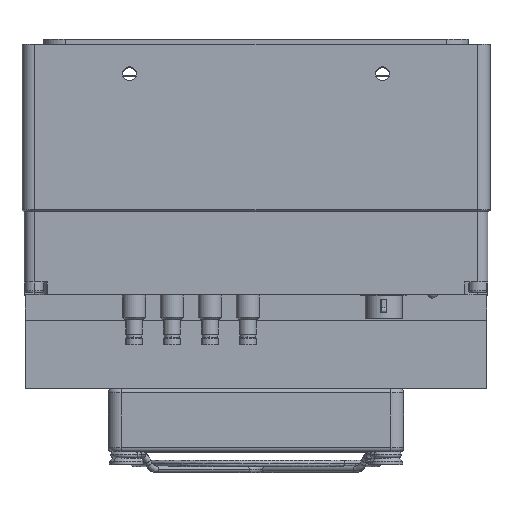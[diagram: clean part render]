
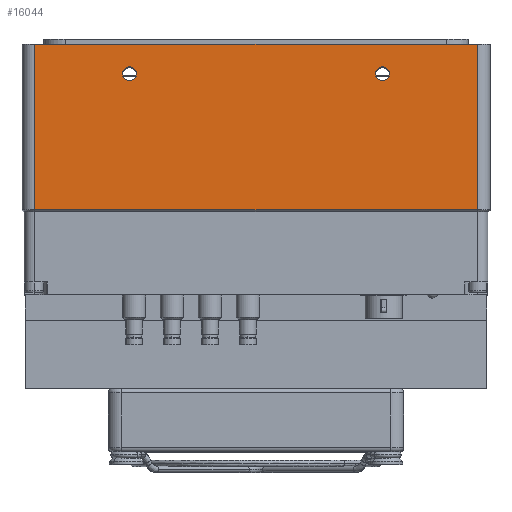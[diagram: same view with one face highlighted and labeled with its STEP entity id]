
A CAD part, top view. The second image highlights one B-rep face of the part: STEP entity #16044.
In plain terms, the highlighted planar face has unit normal (0, 0, 1).
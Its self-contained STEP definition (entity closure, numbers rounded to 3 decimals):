
#20 = VERTEX_POINT ( 'NONE', #24943 ) ;
#245 = AXIS2_PLACEMENT_3D ( 'NONE', #19605, #1244, #9084 ) ;
#607 = DIRECTION ( 'NONE',  ( 1., 0., 0. ) ) ;
#838 = CARTESIAN_POINT ( 'NONE',  ( -88.929, 32.853, 55.5 ) ) ;
#1244 = DIRECTION ( 'NONE',  ( 0., 0., 1. ) ) ;
#1448 = DIRECTION ( 'NONE',  ( 0., 0., 1. ) ) ;
#1596 = CARTESIAN_POINT ( 'NONE',  ( -106.429, 29.803, 55.5 ) ) ;
#2231 = EDGE_CURVE ( 'NONE', #20, #5968, #28464, .T. ) ;
#3607 = VECTOR ( 'NONE', #26784, 1000. ) ;
#3763 = EDGE_LOOP ( 'NONE', ( #31442, #33949, #25688, #29340 ) ) ;
#5695 = EDGE_CURVE ( 'NONE', #6828, #33868, #8930, .T. ) ;
#5968 = VERTEX_POINT ( 'NONE', #7242 ) ;
#6269 = AXIS2_PLACEMENT_3D ( 'NONE', #1596, #6867, #25158 ) ;
#6828 = VERTEX_POINT ( 'NONE', #18799 ) ;
#6867 = DIRECTION ( 'NONE',  ( 0., 0., -1. ) ) ;
#7242 = CARTESIAN_POINT ( 'NONE',  ( -64.779, 25.853, 55.5 ) ) ;
#7289 = DIRECTION ( 'NONE',  ( 0., 0., 1. ) ) ;
#8387 = CARTESIAN_POINT ( 'NONE',  ( -106.429, 32.853, 55.5 ) ) ;
#8701 = VECTOR ( 'NONE', #25701, 1000. ) ;
#8930 = CIRCLE ( 'NONE', #21032, 1.65 ) ;
#9084 = DIRECTION ( 'NONE',  ( 1., 0., 0. ) ) ;
#10398 = ORIENTED_EDGE ( 'NONE', *, *, #24783, .F. ) ;
#11568 = EDGE_CURVE ( 'NONE', #19849, #25580, #15161, .T. ) ;
#13868 = VERTEX_POINT ( 'NONE', #838 ) ;
#14281 = LINE ( 'NONE', #8387, #3607 ) ;
#14282 = FACE_OUTER_BOUND ( 'NONE', #3763, .T. ) ;
#14766 = DIRECTION ( 'NONE',  ( 1., 0., 0. ) ) ;
#14783 = CARTESIAN_POINT ( 'NONE',  ( 16.071, 29.803, 55.5 ) ) ;
#14889 = LINE ( 'NONE', #25844, #29750 ) ;
#14981 = CARTESIAN_POINT ( 'NONE',  ( -8.079, 25.853, 55.5 ) ) ;
#15017 = CARTESIAN_POINT ( 'NONE',  ( -88.929, -6.367, 55.5 ) ) ;
#15161 = LINE ( 'NONE', #21523, #28358 ) ;
#15284 = LINE ( 'NONE', #14783, #8701 ) ;
#16044 = ADVANCED_FACE ( 'NONE', ( #29154, #18804, #14282 ), #16892, .F. ) ;
#16162 = ORIENTED_EDGE ( 'NONE', *, *, #17497, .F. ) ;
#16892 = PLANE ( 'NONE',  #6269 ) ;
#17029 = AXIS2_PLACEMENT_3D ( 'NONE', #33228, #1448, #27705 ) ;
#17497 = EDGE_CURVE ( 'NONE', #5968, #20, #23675, .T. ) ;
#17547 = CIRCLE ( 'NONE', #17029, 1.65 ) ;
#17815 = ORIENTED_EDGE ( 'NONE', *, *, #2231, .F. ) ;
#18021 = DIRECTION ( 'NONE',  ( 0., -1., 0. ) ) ;
#18799 = CARTESIAN_POINT ( 'NONE',  ( -4.779, 25.853, 55.5 ) ) ;
#18804 = FACE_BOUND ( 'NONE', #32622, .T. ) ;
#19193 = DIRECTION ( 'NONE',  ( 1., 0., 0. ) ) ;
#19542 = EDGE_CURVE ( 'NONE', #13868, #19849, #14889, .T. ) ;
#19605 = CARTESIAN_POINT ( 'NONE',  ( -66.429, 25.853, 55.5 ) ) ;
#19812 = EDGE_CURVE ( 'NONE', #25580, #28583, #15284, .T. ) ;
#19849 = VERTEX_POINT ( 'NONE', #15017 ) ;
#21032 = AXIS2_PLACEMENT_3D ( 'NONE', #27185, #32354, #19193 ) ;
#21523 = CARTESIAN_POINT ( 'NONE',  ( 30.571, -6.367, 55.5 ) ) ;
#23675 = CIRCLE ( 'NONE', #32068, 1.65 ) ;
#23826 = CARTESIAN_POINT ( 'NONE',  ( 16.071, -6.367, 55.5 ) ) ;
#24640 = EDGE_CURVE ( 'NONE', #28583, #13868, #14281, .T. ) ;
#24783 = EDGE_CURVE ( 'NONE', #33868, #6828, #17547, .T. ) ;
#24893 = ORIENTED_EDGE ( 'NONE', *, *, #5695, .F. ) ;
#24943 = CARTESIAN_POINT ( 'NONE',  ( -68.079, 25.853, 55.5 ) ) ;
#25158 = DIRECTION ( 'NONE',  ( -1., 0., 0. ) ) ;
#25341 = CARTESIAN_POINT ( 'NONE',  ( -66.429, 25.853, 55.5 ) ) ;
#25580 = VERTEX_POINT ( 'NONE', #23826 ) ;
#25688 = ORIENTED_EDGE ( 'NONE', *, *, #19542, .T. ) ;
#25701 = DIRECTION ( 'NONE',  ( 0., 1., 0. ) ) ;
#25844 = CARTESIAN_POINT ( 'NONE',  ( -88.929, 29.803, 55.5 ) ) ;
#26784 = DIRECTION ( 'NONE',  ( -1., 0., 0. ) ) ;
#27185 = CARTESIAN_POINT ( 'NONE',  ( -6.429, 25.853, 55.5 ) ) ;
#27705 = DIRECTION ( 'NONE',  ( 1., 0., 0. ) ) ;
#28358 = VECTOR ( 'NONE', #607, 1000. ) ;
#28464 = CIRCLE ( 'NONE', #245, 1.65 ) ;
#28583 = VERTEX_POINT ( 'NONE', #29309 ) ;
#29154 = FACE_BOUND ( 'NONE', #31640, .T. ) ;
#29309 = CARTESIAN_POINT ( 'NONE',  ( 16.071, 32.853, 55.5 ) ) ;
#29340 = ORIENTED_EDGE ( 'NONE', *, *, #11568, .T. ) ;
#29750 = VECTOR ( 'NONE', #18021, 1000. ) ;
#31442 = ORIENTED_EDGE ( 'NONE', *, *, #19812, .T. ) ;
#31640 = EDGE_LOOP ( 'NONE', ( #24893, #10398 ) ) ;
#32068 = AXIS2_PLACEMENT_3D ( 'NONE', #25341, #7289, #14766 ) ;
#32354 = DIRECTION ( 'NONE',  ( 0., 0., 1. ) ) ;
#32622 = EDGE_LOOP ( 'NONE', ( #16162, #17815 ) ) ;
#33228 = CARTESIAN_POINT ( 'NONE',  ( -6.429, 25.853, 55.5 ) ) ;
#33868 = VERTEX_POINT ( 'NONE', #14981 ) ;
#33949 = ORIENTED_EDGE ( 'NONE', *, *, #24640, .T. ) ;
